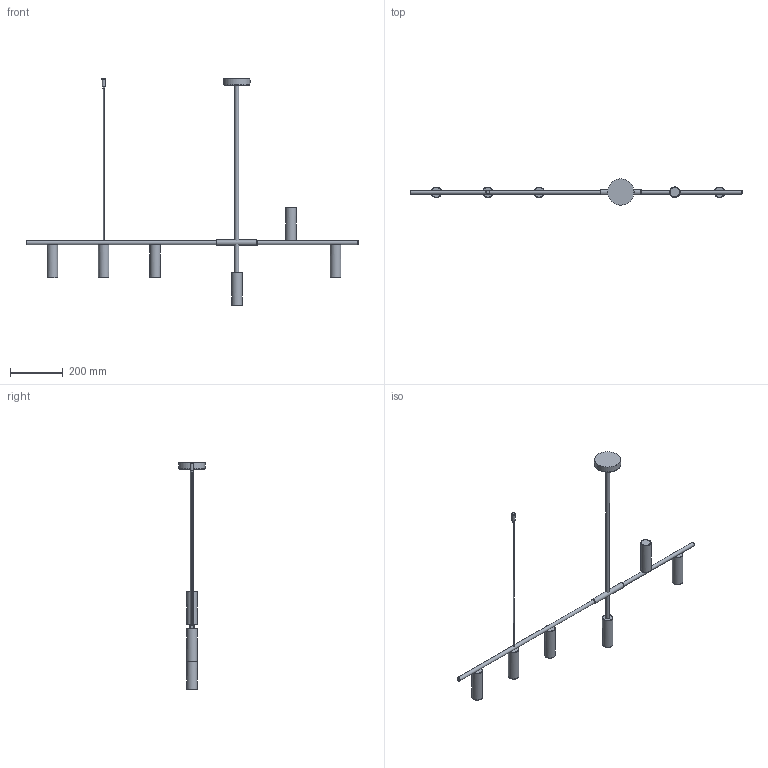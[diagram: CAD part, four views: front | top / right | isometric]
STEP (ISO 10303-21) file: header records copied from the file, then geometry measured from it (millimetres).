
FILE_DESCRIPTION ((), '1');
FILE_NAME ('C:\Users\MiCHAL\Desktop\ALDEX - Modele 3D 07.12.2022\1104K1\1104K1\1104K1.stp', '2023-01-31T17:51:50', ('Unknown'), ('Unknown'), 'HarmonyWare STEP v2.1.4', 'HarmonyWare Translators', '');
FILE_SCHEMA (('CONFIG_CONTROL_DESIGN'));
Length unit declared in the file: centimetre
Assembly tree (22 placements, depth 2):
  (unnamed)
    (unnamed)
    (unnamed)
    (unnamed)
    (unnamed)
    (unnamed)
    (unnamed)
    (unnamed)
    (unnamed)
    (unnamed)
    (unnamed)
    (unnamed)
    (unnamed)
    (unnamed)
    (unnamed)
    (unnamed)
    (unnamed)
    (unnamed)
    (unnamed)
    (unnamed)
    (unnamed)
    (unnamed)
    (unnamed)
Bounding box: 1260 x 99.92 x 861 mm (x, y, z)
Volume: 1562071.7 mm3; surface area: 437533.6 mm2
Topology: 22 solids, 22 shells, 97 faces, 159 edges, 121 vertices
Faces by surface type: bspline 97
Entity records: 11984 total; most frequent: CARTESIAN_POINT 7606, ORIENTED_EDGE 256, PERSON 228, ORGANIZATION 228, PERSON_AND_ORGANIZATION 228, CALENDAR_DATE 159, COORDINATED_UNIVERSAL_TIME_OFFSET 159, LOCAL_TIME 159
